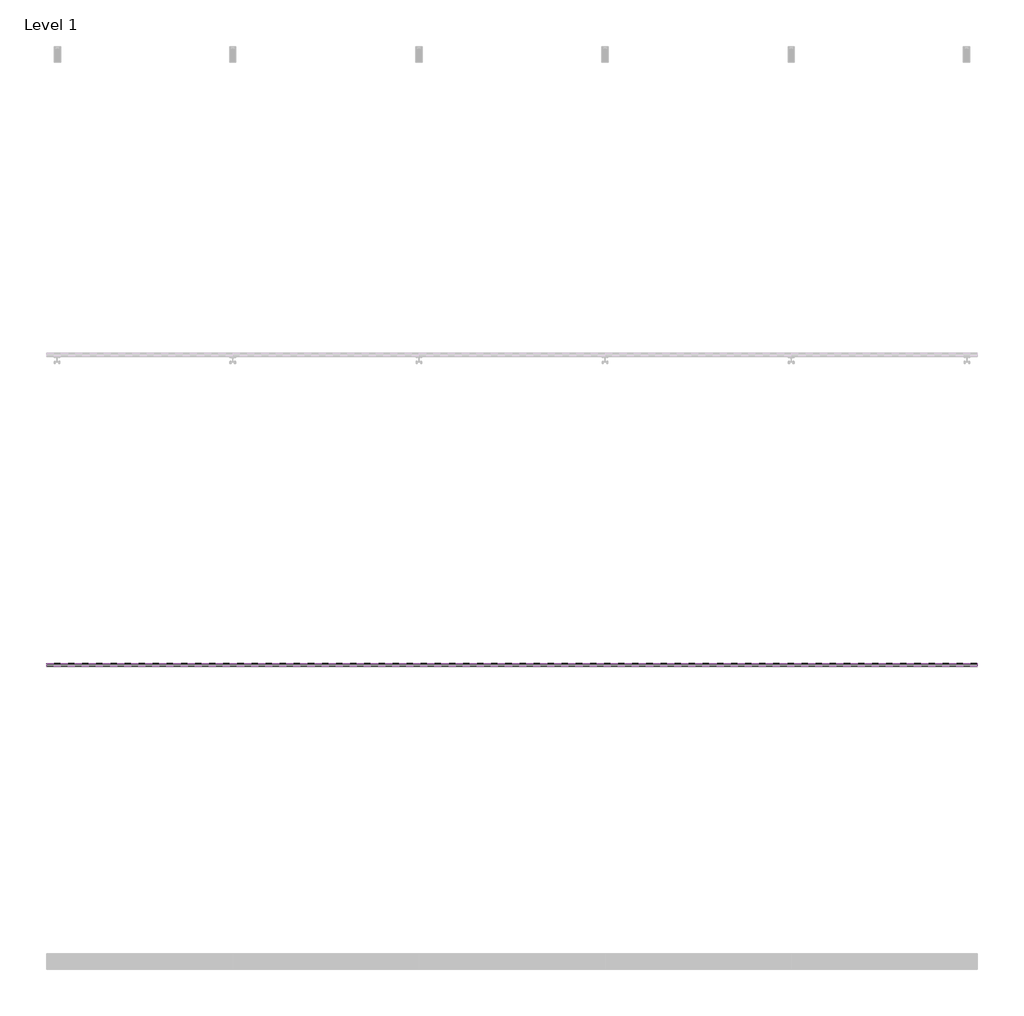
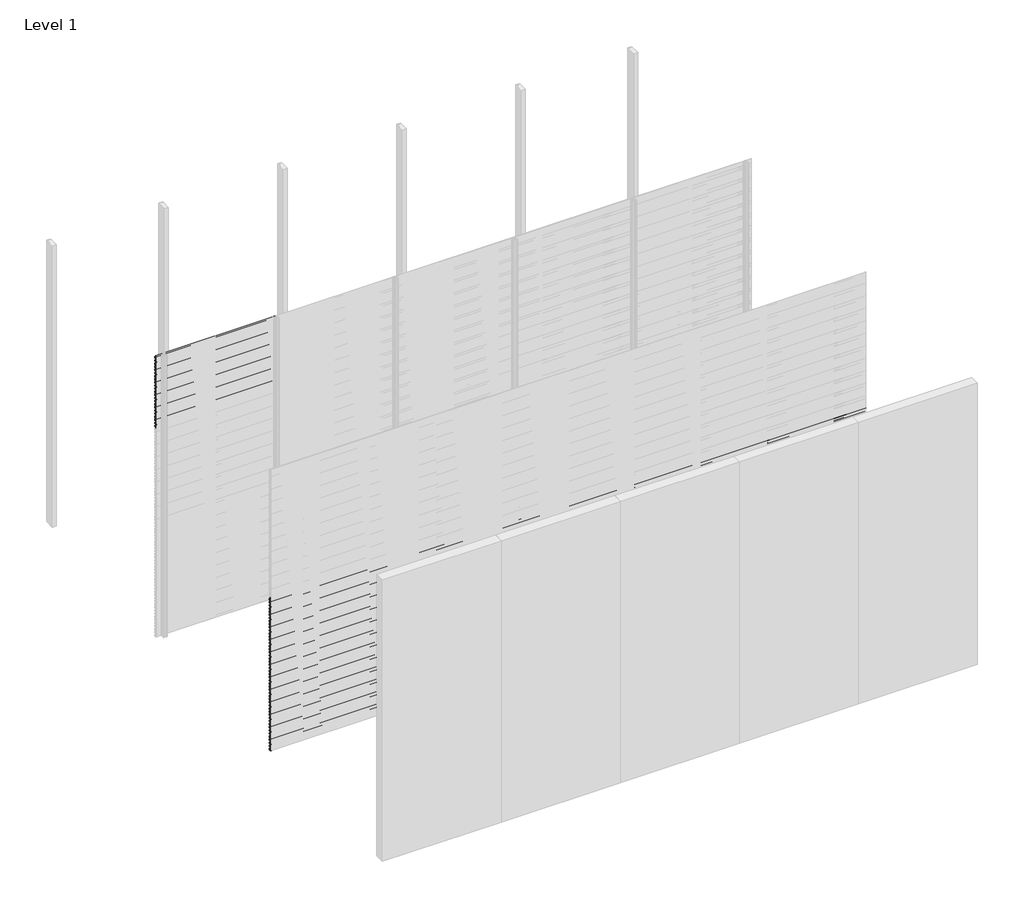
# One storey, part 19 of 77: 72 proxies.
"""IFC4 building model written with IfcOpenShell, lengths in millimetres."""

from ifc_helpers import new_model, si_unit, frame, origin, place, context, project, spatial, polyline, outline, extrude, element, save

model = new_model("IFC4")

# Units and contexts
model_context = context("Model", 3, world=origin())
ifc_project = project(units=[si_unit("LENGTHUNIT", "METRE", prefix="MILLI")], contexts=[model_context])

# Site, building, storey
site = spatial("IfcSite", under=ifc_project)
building = spatial("IfcBuilding", under=site)
storey = spatial("IfcBuildingStorey", under=building, Name="Level 1", Elevation=0.0)

# Proxies
placement = place(None, origin())
element("IfcBuildingElementProxy", 1, Name="Wall Sweeps", at=placement, inside=storey, context=model_context, shape_type="SweptSolid", body=[
    extrude(outline(polyline([(-41978.6, 2972.5359887), (-41998.0, 2983.7366691), (-41998.0, 2997.0), (-41997.0, 2997.0), (-41997.0, 2984.3191057), (-41977.6, 2973.1185105), (-41977.6, 2959.5185105), (-41978.6, 2961.0953129), (-41978.6, 2966.9032062), (-41995.9773817, 2958.8), (-41996.4, 2959.7063078), (-41978.6, 2968.0065841), (-41978.6, 2972.5359887)])), frame((0.0, 0.0, 0.0), z_axis=(1.0, 0.0, 0.0), x_axis=(0.0, 1.0, 0.0)), (0.0, 0.0, 1.0), 1200.0),
])
element("IfcBuildingElementProxy", 2, Name="Wall Sweeps", at=placement, inside=storey, context=model_context, shape_type="SweptSolid", body=[
    extrude(outline(polyline([(-41978.6, 2939.2359887), (-41998.0, 2950.4366691), (-41998.0, 2963.7), (-41997.0, 2963.7), (-41997.0, 2951.0191057), (-41977.6, 2939.8185105), (-41977.6, 2926.2185105), (-41978.6, 2927.7953129), (-41978.6, 2933.6032062), (-41995.9773817, 2925.5), (-41996.4, 2926.4063078), (-41978.6, 2934.7065841), (-41978.6, 2939.2359887)])), frame((0.0, 0.0, 0.0), z_axis=(1.0, 0.0, 0.0), x_axis=(0.0, 1.0, 0.0)), (0.0, 0.0, 1.0), 1200.0),
])
element("IfcBuildingElementProxy", 3, Name="Wall Sweeps", at=placement, inside=storey, context=model_context, shape_type="SweptSolid", body=[
    extrude(outline(polyline([(-41978.6, 2905.9359887), (-41998.0, 2917.1366691), (-41998.0, 2930.4), (-41997.0, 2930.4), (-41997.0, 2917.7191057), (-41977.6, 2906.5185105), (-41977.6, 2892.9185105), (-41978.6, 2894.4953129), (-41978.6, 2900.3032062), (-41995.9773817, 2892.2), (-41996.4, 2893.1063078), (-41978.6, 2901.4065841), (-41978.6, 2905.9359887)])), frame((0.0, 0.0, 0.0), z_axis=(1.0, 0.0, 0.0), x_axis=(0.0, 1.0, 0.0)), (0.0, 0.0, 1.0), 1200.0),
])
element("IfcBuildingElementProxy", 4, Name="Wall Sweeps", at=placement, inside=storey, context=model_context, shape_type="SweptSolid", body=[
    extrude(outline(polyline([(-41978.6, 2872.6359887), (-41998.0, 2883.8366691), (-41998.0, 2897.1), (-41997.0, 2897.1), (-41997.0, 2884.4191057), (-41977.6, 2873.2185105), (-41977.6, 2859.6185105), (-41978.6, 2861.1953129), (-41978.6, 2867.0032062), (-41995.9773817, 2858.9), (-41996.4, 2859.8063078), (-41978.6, 2868.1065841), (-41978.6, 2872.6359887)])), frame((0.0, 0.0, 0.0), z_axis=(1.0, 0.0, 0.0), x_axis=(0.0, 1.0, 0.0)), (0.0, 0.0, 1.0), 1200.0),
])
element("IfcBuildingElementProxy", 5, Name="Wall Sweeps", at=placement, inside=storey, context=model_context, shape_type="SweptSolid", body=[
    extrude(outline(polyline([(-41978.6, 2839.3359887), (-41998.0, 2850.5366691), (-41998.0, 2863.8), (-41997.0, 2863.8), (-41997.0, 2851.1191057), (-41977.6, 2839.9185105), (-41977.6, 2826.3185105), (-41978.6, 2827.8953129), (-41978.6, 2833.7032062), (-41995.9773817, 2825.6), (-41996.4, 2826.5063078), (-41978.6, 2834.8065841), (-41978.6, 2839.3359887)])), frame((0.0, 0.0, 0.0), z_axis=(1.0, 0.0, 0.0), x_axis=(0.0, 1.0, 0.0)), (0.0, 0.0, 1.0), 1200.0),
])
element("IfcBuildingElementProxy", 6, Name="Wall Sweeps", at=placement, inside=storey, context=model_context, shape_type="SweptSolid", body=[
    extrude(outline(polyline([(-41978.6, 2806.0359887), (-41998.0, 2817.2366691), (-41998.0, 2830.5), (-41997.0, 2830.5), (-41997.0, 2817.8191057), (-41977.6, 2806.6185105), (-41977.6, 2793.0185105), (-41978.6, 2794.5953129), (-41978.6, 2800.4032062), (-41995.9773817, 2792.3), (-41996.4, 2793.2063078), (-41978.6, 2801.5065841), (-41978.6, 2806.0359887)])), frame((0.0, 0.0, 0.0), z_axis=(1.0, 0.0, 0.0), x_axis=(0.0, 1.0, 0.0)), (0.0, 0.0, 1.0), 1200.0),
])
element("IfcBuildingElementProxy", 7, Name="Wall Sweeps", at=placement, inside=storey, context=model_context, shape_type="SweptSolid", body=[
    extrude(outline(polyline([(-41978.6, 2772.7359887), (-41998.0, 2783.9366691), (-41998.0, 2797.2), (-41997.0, 2797.2), (-41997.0, 2784.5191057), (-41977.6, 2773.3185105), (-41977.6, 2759.7185105), (-41978.6, 2761.2953129), (-41978.6, 2767.1032062), (-41995.9773817, 2759.0), (-41996.4, 2759.9063078), (-41978.6, 2768.2065841), (-41978.6, 2772.7359887)])), frame((0.0, 0.0, 0.0), z_axis=(1.0, 0.0, 0.0), x_axis=(0.0, 1.0, 0.0)), (0.0, 0.0, 1.0), 1200.0),
])
element("IfcBuildingElementProxy", 8, Name="Wall Sweeps", at=placement, inside=storey, context=model_context, shape_type="SweptSolid", body=[
    extrude(outline(polyline([(-41978.6, 2739.4359887), (-41998.0, 2750.6366691), (-41998.0, 2763.9), (-41997.0, 2763.9), (-41997.0, 2751.2191057), (-41977.6, 2740.0185105), (-41977.6, 2726.4185105), (-41978.6, 2727.9953129), (-41978.6, 2733.8032062), (-41995.9773817, 2725.7), (-41996.4, 2726.6063078), (-41978.6, 2734.9065841), (-41978.6, 2739.4359887)])), frame((0.0, 0.0, 0.0), z_axis=(1.0, 0.0, 0.0), x_axis=(0.0, 1.0, 0.0)), (0.0, 0.0, 1.0), 1200.0),
])
element("IfcBuildingElementProxy", 9, Name="Wall Sweeps", at=placement, inside=storey, context=model_context, shape_type="SweptSolid", body=[
    extrude(outline(polyline([(-41978.6, 2706.1359887), (-41998.0, 2717.3366691), (-41998.0, 2730.6), (-41997.0, 2730.6), (-41997.0, 2717.9191057), (-41977.6, 2706.7185105), (-41977.6, 2693.1185105), (-41978.6, 2694.6953129), (-41978.6, 2700.5032062), (-41995.9773817, 2692.4), (-41996.4, 2693.3063078), (-41978.6, 2701.6065841), (-41978.6, 2706.1359887)])), frame((0.0, 0.0, 0.0), z_axis=(1.0, 0.0, 0.0), x_axis=(0.0, 1.0, 0.0)), (0.0, 0.0, 1.0), 1200.0),
])
element("IfcBuildingElementProxy", 10, Name="Wall Sweeps", at=placement, inside=storey, context=model_context, shape_type="SweptSolid", body=[
    extrude(outline(polyline([(-41978.6, 2672.8359887), (-41998.0, 2684.0366691), (-41998.0, 2697.3), (-41997.0, 2697.3), (-41997.0, 2684.6191057), (-41977.6, 2673.4185105), (-41977.6, 2659.8185105), (-41978.6, 2661.3953129), (-41978.6, 2667.2032062), (-41995.9773817, 2659.1), (-41996.4, 2660.0063078), (-41978.6, 2668.3065841), (-41978.6, 2672.8359887)])), frame((0.0, 0.0, 0.0), z_axis=(1.0, 0.0, 0.0), x_axis=(0.0, 1.0, 0.0)), (0.0, 0.0, 1.0), 1200.0),
])
element("IfcBuildingElementProxy", 11, Name="Wall Sweeps", at=placement, inside=storey, context=model_context, shape_type="SweptSolid", body=[
    extrude(outline(polyline([(-41978.6, 2639.5359887), (-41998.0, 2650.7366691), (-41998.0, 2664.0), (-41997.0, 2664.0), (-41997.0, 2651.3191057), (-41977.6, 2640.1185105), (-41977.6, 2626.5185105), (-41978.6, 2628.0953129), (-41978.6, 2633.9032062), (-41995.9773817, 2625.8), (-41996.4, 2626.7063078), (-41978.6, 2635.0065841), (-41978.6, 2639.5359887)])), frame((0.0, 0.0, 0.0), z_axis=(1.0, 0.0, 0.0), x_axis=(0.0, 1.0, 0.0)), (0.0, 0.0, 1.0), 1200.0),
])
element("IfcBuildingElementProxy", 12, Name="Wall Sweeps", at=placement, inside=storey, context=model_context, shape_type="SweptSolid", body=[
    extrude(outline(polyline([(-41978.6, 2606.2359887), (-41998.0, 2617.4366691), (-41998.0, 2630.7), (-41997.0, 2630.7), (-41997.0, 2618.0191057), (-41977.6, 2606.8185105), (-41977.6, 2593.2185105), (-41978.6, 2594.7953129), (-41978.6, 2600.6032062), (-41995.9773817, 2592.5), (-41996.4, 2593.4063078), (-41978.6, 2601.7065841), (-41978.6, 2606.2359887)])), frame((0.0, 0.0, 0.0), z_axis=(1.0, 0.0, 0.0), x_axis=(0.0, 1.0, 0.0)), (0.0, 0.0, 1.0), 1200.0),
])
element("IfcBuildingElementProxy", 13, Name="Wall Sweeps", at=placement, inside=storey, context=model_context, shape_type="SweptSolid", body=[
    extrude(outline(polyline([(-41978.6, 2572.9359887), (-41998.0, 2584.1366691), (-41998.0, 2597.4), (-41997.0, 2597.4), (-41997.0, 2584.7191057), (-41977.6, 2573.5185105), (-41977.6, 2559.9185105), (-41978.6, 2561.4953129), (-41978.6, 2567.3032062), (-41995.9773817, 2559.2), (-41996.4, 2560.1063078), (-41978.6, 2568.4065841), (-41978.6, 2572.9359887)])), frame((0.0, 0.0, 0.0), z_axis=(1.0, 0.0, 0.0), x_axis=(0.0, 1.0, 0.0)), (0.0, 0.0, 1.0), 1200.0),
])
element("IfcBuildingElementProxy", 14, Name="Wall Sweeps", at=placement, inside=storey, context=model_context, shape_type="SweptSolid", body=[
    extrude(outline(polyline([(-41978.6, 2539.6359887), (-41998.0, 2550.8366691), (-41998.0, 2564.1), (-41997.0, 2564.1), (-41997.0, 2551.4191057), (-41977.6, 2540.2185105), (-41977.6, 2526.6185105), (-41978.6, 2528.1953129), (-41978.6, 2534.0032062), (-41995.9773817, 2525.9), (-41996.4, 2526.8063078), (-41978.6, 2535.1065841), (-41978.6, 2539.6359887)])), frame((0.0, 0.0, 0.0), z_axis=(1.0, 0.0, 0.0), x_axis=(0.0, 1.0, 0.0)), (0.0, 0.0, 1.0), 1200.0),
])
element("IfcBuildingElementProxy", 15, Name="Wall Sweeps", at=placement, inside=storey, context=model_context, shape_type="SweptSolid", body=[
    extrude(outline(polyline([(-41978.6, 2506.3359887), (-41998.0, 2517.5366691), (-41998.0, 2530.8), (-41997.0, 2530.8), (-41997.0, 2518.1191057), (-41977.6, 2506.9185105), (-41977.6, 2493.3185105), (-41978.6, 2494.8953129), (-41978.6, 2500.7032062), (-41995.9773817, 2492.6), (-41996.4, 2493.5063078), (-41978.6, 2501.8065841), (-41978.6, 2506.3359887)])), frame((0.0, 0.0, 0.0), z_axis=(1.0, 0.0, 0.0), x_axis=(0.0, 1.0, 0.0)), (0.0, 0.0, 1.0), 1200.0),
])
element("IfcBuildingElementProxy", 16, Name="Wall Sweeps", at=placement, inside=storey, context=model_context, shape_type="SweptSolid", body=[
    extrude(outline(polyline([(-41978.6, 2473.0359887), (-41998.0, 2484.2366691), (-41998.0, 2497.5), (-41997.0, 2497.5), (-41997.0, 2484.8191057), (-41977.6, 2473.6185105), (-41977.6, 2460.0185105), (-41978.6, 2461.5953129), (-41978.6, 2467.4032062), (-41995.9773817, 2459.3), (-41996.4, 2460.2063078), (-41978.6, 2468.5065841), (-41978.6, 2473.0359887)])), frame((0.0, 0.0, 0.0), z_axis=(1.0, 0.0, 0.0), x_axis=(0.0, 1.0, 0.0)), (0.0, 0.0, 1.0), 1200.0),
])
element("IfcBuildingElementProxy", 17, Name="Wall Sweeps", at=placement, inside=storey, context=model_context, shape_type="SweptSolid", body=[
    extrude(outline(polyline([(-41978.6, 2439.7359887), (-41998.0, 2450.9366691), (-41998.0, 2464.2), (-41997.0, 2464.2), (-41997.0, 2451.5191057), (-41977.6, 2440.3185105), (-41977.6, 2426.7185105), (-41978.6, 2428.2953129), (-41978.6, 2434.1032062), (-41995.9773817, 2426.0), (-41996.4, 2426.9063078), (-41978.6, 2435.2065841), (-41978.6, 2439.7359887)])), frame((0.0, 0.0, 0.0), z_axis=(1.0, 0.0, 0.0), x_axis=(0.0, 1.0, 0.0)), (0.0, 0.0, 1.0), 1200.0),
])
element("IfcBuildingElementProxy", 18, Name="Wall Sweeps", at=placement, inside=storey, context=model_context, shape_type="SweptSolid", body=[
    extrude(outline(polyline([(-41978.6, 2406.4359887), (-41998.0, 2417.6366691), (-41998.0, 2430.9), (-41997.0, 2430.9), (-41997.0, 2418.2191057), (-41977.6, 2407.0185105), (-41977.6, 2393.4185105), (-41978.6, 2394.9953129), (-41978.6, 2400.8032062), (-41995.9773817, 2392.7), (-41996.4, 2393.6063078), (-41978.6, 2401.9065841), (-41978.6, 2406.4359887)])), frame((0.0, 0.0, 0.0), z_axis=(1.0, 0.0, 0.0), x_axis=(0.0, 1.0, 0.0)), (0.0, 0.0, 1.0), 1200.0),
])
element("IfcBuildingElementProxy", 19, Name="Wall Sweeps", at=placement, inside=storey, context=model_context, shape_type="SweptSolid", body=[
    extrude(outline(polyline([(-41978.6, 2373.1359887), (-41998.0, 2384.3366691), (-41998.0, 2397.6), (-41997.0, 2397.6), (-41997.0, 2384.9191057), (-41977.6, 2373.7185105), (-41977.6, 2360.1185105), (-41978.6, 2361.6953129), (-41978.6, 2367.5032062), (-41995.9773817, 2359.4), (-41996.4, 2360.3063078), (-41978.6, 2368.6065841), (-41978.6, 2373.1359887)])), frame((0.0, 0.0, 0.0), z_axis=(1.0, 0.0, 0.0), x_axis=(0.0, 1.0, 0.0)), (0.0, 0.0, 1.0), 1200.0),
])
element("IfcBuildingElementProxy", 20, Name="Wall Sweeps", at=placement, inside=storey, context=model_context, shape_type="SweptSolid", body=[
    extrude(outline(polyline([(-41978.6, 2339.8359887), (-41998.0, 2351.0366691), (-41998.0, 2364.3), (-41997.0, 2364.3), (-41997.0, 2351.6191057), (-41977.6, 2340.4185105), (-41977.6, 2326.8185105), (-41978.6, 2328.3953129), (-41978.6, 2334.2032062), (-41995.9773817, 2326.1), (-41996.4, 2327.0063078), (-41978.6, 2335.3065841), (-41978.6, 2339.8359887)])), frame((0.0, 0.0, 0.0), z_axis=(1.0, 0.0, 0.0), x_axis=(0.0, 1.0, 0.0)), (0.0, 0.0, 1.0), 1200.0),
])
element("IfcBuildingElementProxy", 21, Name="Wall Sweeps", at=placement, inside=storey, context=model_context, shape_type="SweptSolid", body=[
    extrude(outline(polyline([(-41978.6, 2306.5359887), (-41998.0, 2317.7366691), (-41998.0, 2331.0), (-41997.0, 2331.0), (-41997.0, 2318.3191057), (-41977.6, 2307.1185105), (-41977.6, 2293.5185105), (-41978.6, 2295.0953129), (-41978.6, 2300.9032062), (-41995.9773817, 2292.8), (-41996.4, 2293.7063078), (-41978.6, 2302.0065841), (-41978.6, 2306.5359887)])), frame((0.0, 0.0, 0.0), z_axis=(1.0, 0.0, 0.0), x_axis=(0.0, 1.0, 0.0)), (0.0, 0.0, 1.0), 1200.0),
])
element("IfcBuildingElementProxy", 22, Name="Wall Sweeps", at=placement, inside=storey, context=model_context, shape_type="SweptSolid", body=[
    extrude(outline(polyline([(-41978.6, 2273.2359887), (-41998.0, 2284.4366691), (-41998.0, 2297.7), (-41997.0, 2297.7), (-41997.0, 2285.0191057), (-41977.6, 2273.8185105), (-41977.6, 2260.2185105), (-41978.6, 2261.7953129), (-41978.6, 2267.6032062), (-41995.9773817, 2259.5), (-41996.4, 2260.4063078), (-41978.6, 2268.7065841), (-41978.6, 2273.2359887)])), frame((0.0, 0.0, 0.0), z_axis=(1.0, 0.0, 0.0), x_axis=(0.0, 1.0, 0.0)), (0.0, 0.0, 1.0), 1200.0),
])
element("IfcBuildingElementProxy", 23, Name="Wall Sweeps", at=placement, inside=storey, context=model_context, shape_type="SweptSolid", body=[
    extrude(outline(polyline([(-41978.6, 2239.9359887), (-41998.0, 2251.1366691), (-41998.0, 2264.4), (-41997.0, 2264.4), (-41997.0, 2251.7191057), (-41977.6, 2240.5185105), (-41977.6, 2226.9185105), (-41978.6, 2228.4953129), (-41978.6, 2234.3032062), (-41995.9773817, 2226.2), (-41996.4, 2227.1063078), (-41978.6, 2235.4065841), (-41978.6, 2239.9359887)])), frame((0.0, 0.0, 0.0), z_axis=(1.0, 0.0, 0.0), x_axis=(0.0, 1.0, 0.0)), (0.0, 0.0, 1.0), 1200.0),
])
element("IfcBuildingElementProxy", 24, Name="Wall Sweeps", at=placement, inside=storey, context=model_context, shape_type="SweptSolid", body=[
    extrude(outline(polyline([(-43978.6, 1607.2359887), (-43998.0, 1618.4366691), (-43998.0, 1631.7), (-43997.0, 1631.7), (-43997.0, 1619.0191057), (-43977.6, 1607.8185105), (-43977.6, 1594.2185105), (-43978.6, 1595.7953129), (-43978.6, 1601.6032062), (-43995.9773817, 1593.5), (-43996.4, 1594.4063078), (-43978.6, 1602.7065841), (-43978.6, 1607.2359887)])), frame((0.0, 0.0, 0.0), z_axis=(1.0, 0.0, 0.0), x_axis=(0.0, 1.0, 0.0)), (0.0, 0.0, 1.0), 6000.0),
])
element("IfcBuildingElementProxy", 25, Name="Wall Sweeps", at=placement, inside=storey, context=model_context, shape_type="SweptSolid", body=[
    extrude(outline(polyline([(-43978.6, 1573.9359887), (-43998.0, 1585.1366691), (-43998.0, 1598.4), (-43997.0, 1598.4), (-43997.0, 1585.7191057), (-43977.6, 1574.5185105), (-43977.6, 1560.9185105), (-43978.6, 1562.4953129), (-43978.6, 1568.3032062), (-43995.9773817, 1560.2), (-43996.4, 1561.1063078), (-43978.6, 1569.4065841), (-43978.6, 1573.9359887)])), frame((0.0, 0.0, 0.0), z_axis=(1.0, 0.0, 0.0), x_axis=(0.0, 1.0, 0.0)), (0.0, 0.0, 1.0), 6000.0),
])
element("IfcBuildingElementProxy", 26, Name="Wall Sweeps", at=placement, inside=storey, context=model_context, shape_type="SweptSolid", body=[
    extrude(outline(polyline([(-43978.6, 1540.6359887), (-43998.0, 1551.8366691), (-43998.0, 1565.1), (-43997.0, 1565.1), (-43997.0, 1552.4191057), (-43977.6, 1541.2185105), (-43977.6, 1527.6185105), (-43978.6, 1529.1953129), (-43978.6, 1535.0032062), (-43995.9773817, 1526.9), (-43996.4, 1527.8063078), (-43978.6, 1536.1065841), (-43978.6, 1540.6359887)])), frame((0.0, 0.0, 0.0), z_axis=(1.0, 0.0, 0.0), x_axis=(0.0, 1.0, 0.0)), (0.0, 0.0, 1.0), 6000.0),
])
element("IfcBuildingElementProxy", 27, Name="Wall Sweeps", at=placement, inside=storey, context=model_context, shape_type="SweptSolid", body=[
    extrude(outline(polyline([(-43978.6, 1507.3359887), (-43998.0, 1518.5366691), (-43998.0, 1531.8), (-43997.0, 1531.8), (-43997.0, 1519.1191057), (-43977.6, 1507.9185105), (-43977.6, 1494.3185105), (-43978.6, 1495.8953129), (-43978.6, 1501.7032062), (-43995.9773817, 1493.6), (-43996.4, 1494.5063078), (-43978.6, 1502.8065841), (-43978.6, 1507.3359887)])), frame((0.0, 0.0, 0.0), z_axis=(1.0, 0.0, 0.0), x_axis=(0.0, 1.0, 0.0)), (0.0, 0.0, 1.0), 6000.0),
])
element("IfcBuildingElementProxy", 28, Name="Wall Sweeps", at=placement, inside=storey, context=model_context, shape_type="SweptSolid", body=[
    extrude(outline(polyline([(-43978.6, 1474.0359887), (-43998.0, 1485.2366691), (-43998.0, 1498.5), (-43997.0, 1498.5), (-43997.0, 1485.8191057), (-43977.6, 1474.6185105), (-43977.6, 1461.0185105), (-43978.6, 1462.5953129), (-43978.6, 1468.4032062), (-43995.9773817, 1460.3), (-43996.4, 1461.2063078), (-43978.6, 1469.5065841), (-43978.6, 1474.0359887)])), frame((0.0, 0.0, 0.0), z_axis=(1.0, 0.0, 0.0), x_axis=(0.0, 1.0, 0.0)), (0.0, 0.0, 1.0), 6000.0),
])
element("IfcBuildingElementProxy", 29, Name="Wall Sweeps", at=placement, inside=storey, context=model_context, shape_type="SweptSolid", body=[
    extrude(outline(polyline([(-43978.6, 1440.7359887), (-43998.0, 1451.9366691), (-43998.0, 1465.2), (-43997.0, 1465.2), (-43997.0, 1452.5191057), (-43977.6, 1441.3185105), (-43977.6, 1427.7185105), (-43978.6, 1429.2953129), (-43978.6, 1435.1032062), (-43995.9773817, 1427.0), (-43996.4, 1427.9063078), (-43978.6, 1436.2065841), (-43978.6, 1440.7359887)])), frame((0.0, 0.0, 0.0), z_axis=(1.0, 0.0, 0.0), x_axis=(0.0, 1.0, 0.0)), (0.0, 0.0, 1.0), 6000.0),
])
element("IfcBuildingElementProxy", 30, Name="Wall Sweeps", at=placement, inside=storey, context=model_context, shape_type="SweptSolid", body=[
    extrude(outline(polyline([(-43978.6, 1407.4359887), (-43998.0, 1418.6366691), (-43998.0, 1431.9), (-43997.0, 1431.9), (-43997.0, 1419.2191057), (-43977.6, 1408.0185105), (-43977.6, 1394.4185105), (-43978.6, 1395.9953129), (-43978.6, 1401.8032062), (-43995.9773817, 1393.7), (-43996.4, 1394.6063078), (-43978.6, 1402.9065841), (-43978.6, 1407.4359887)])), frame((0.0, 0.0, 0.0), z_axis=(1.0, 0.0, 0.0), x_axis=(0.0, 1.0, 0.0)), (0.0, 0.0, 1.0), 6000.0),
])
element("IfcBuildingElementProxy", 31, Name="Wall Sweeps", at=placement, inside=storey, context=model_context, shape_type="SweptSolid", body=[
    extrude(outline(polyline([(-43978.6, 1374.1359887), (-43998.0, 1385.3366691), (-43998.0, 1398.6), (-43997.0, 1398.6), (-43997.0, 1385.9191057), (-43977.6, 1374.7185105), (-43977.6, 1361.1185105), (-43978.6, 1362.6953129), (-43978.6, 1368.5032062), (-43995.9773817, 1360.4), (-43996.4, 1361.3063078), (-43978.6, 1369.6065841), (-43978.6, 1374.1359887)])), frame((0.0, 0.0, 0.0), z_axis=(1.0, 0.0, 0.0), x_axis=(0.0, 1.0, 0.0)), (0.0, 0.0, 1.0), 6000.0),
])
element("IfcBuildingElementProxy", 32, Name="Wall Sweeps", at=placement, inside=storey, context=model_context, shape_type="SweptSolid", body=[
    extrude(outline(polyline([(-43978.6, 1340.8359887), (-43998.0, 1352.0366691), (-43998.0, 1365.3), (-43997.0, 1365.3), (-43997.0, 1352.6191057), (-43977.6, 1341.4185105), (-43977.6, 1327.8185105), (-43978.6, 1329.3953129), (-43978.6, 1335.2032062), (-43995.9773817, 1327.1), (-43996.4, 1328.0063078), (-43978.6, 1336.3065841), (-43978.6, 1340.8359887)])), frame((0.0, 0.0, 0.0), z_axis=(1.0, 0.0, 0.0), x_axis=(0.0, 1.0, 0.0)), (0.0, 0.0, 1.0), 6000.0),
])
element("IfcBuildingElementProxy", 33, Name="Wall Sweeps", at=placement, inside=storey, context=model_context, shape_type="SweptSolid", body=[
    extrude(outline(polyline([(-43978.6, 1307.5359887), (-43998.0, 1318.7366691), (-43998.0, 1332.0), (-43997.0, 1332.0), (-43997.0, 1319.3191057), (-43977.6, 1308.1185105), (-43977.6, 1294.5185105), (-43978.6, 1296.0953129), (-43978.6, 1301.9032062), (-43995.9773817, 1293.8), (-43996.4, 1294.7063078), (-43978.6, 1303.0065841), (-43978.6, 1307.5359887)])), frame((0.0, 0.0, 0.0), z_axis=(1.0, 0.0, 0.0), x_axis=(0.0, 1.0, 0.0)), (0.0, 0.0, 1.0), 6000.0),
])
element("IfcBuildingElementProxy", 34, Name="Wall Sweeps", at=placement, inside=storey, context=model_context, shape_type="SweptSolid", body=[
    extrude(outline(polyline([(-43978.6, 1274.2359887), (-43998.0, 1285.4366691), (-43998.0, 1298.7), (-43997.0, 1298.7), (-43997.0, 1286.0191057), (-43977.6, 1274.8185105), (-43977.6, 1261.2185105), (-43978.6, 1262.7953129), (-43978.6, 1268.6032062), (-43995.9773817, 1260.5), (-43996.4, 1261.4063078), (-43978.6, 1269.7065841), (-43978.6, 1274.2359887)])), frame((0.0, 0.0, 0.0), z_axis=(1.0, 0.0, 0.0), x_axis=(0.0, 1.0, 0.0)), (0.0, 0.0, 1.0), 6000.0),
])
element("IfcBuildingElementProxy", 35, Name="Wall Sweeps", at=placement, inside=storey, context=model_context, shape_type="SweptSolid", body=[
    extrude(outline(polyline([(-43978.6, 1240.9359887), (-43998.0, 1252.1366691), (-43998.0, 1265.4), (-43997.0, 1265.4), (-43997.0, 1252.7191057), (-43977.6, 1241.5185105), (-43977.6, 1227.9185105), (-43978.6, 1229.4953129), (-43978.6, 1235.3032062), (-43995.9773817, 1227.2), (-43996.4, 1228.1063078), (-43978.6, 1236.4065841), (-43978.6, 1240.9359887)])), frame((0.0, 0.0, 0.0), z_axis=(1.0, 0.0, 0.0), x_axis=(0.0, 1.0, 0.0)), (0.0, 0.0, 1.0), 6000.0),
])
element("IfcBuildingElementProxy", 36, Name="Wall Sweeps", at=placement, inside=storey, context=model_context, shape_type="SweptSolid", body=[
    extrude(outline(polyline([(-43978.6, 1207.6359887), (-43998.0, 1218.8366691), (-43998.0, 1232.1), (-43997.0, 1232.1), (-43997.0, 1219.4191057), (-43977.6, 1208.2185105), (-43977.6, 1194.6185105), (-43978.6, 1196.1953129), (-43978.6, 1202.0032062), (-43995.9773817, 1193.9), (-43996.4, 1194.8063078), (-43978.6, 1203.1065841), (-43978.6, 1207.6359887)])), frame((0.0, 0.0, 0.0), z_axis=(1.0, 0.0, 0.0), x_axis=(0.0, 1.0, 0.0)), (0.0, 0.0, 1.0), 6000.0),
])
element("IfcBuildingElementProxy", 37, Name="Wall Sweeps", at=placement, inside=storey, context=model_context, shape_type="SweptSolid", body=[
    extrude(outline(polyline([(-43978.6, 1174.3359887), (-43998.0, 1185.5366691), (-43998.0, 1198.8), (-43997.0, 1198.8), (-43997.0, 1186.1191057), (-43977.6, 1174.9185105), (-43977.6, 1161.3185105), (-43978.6, 1162.8953129), (-43978.6, 1168.7032062), (-43995.9773817, 1160.6), (-43996.4, 1161.5063078), (-43978.6, 1169.8065841), (-43978.6, 1174.3359887)])), frame((0.0, 0.0, 0.0), z_axis=(1.0, 0.0, 0.0), x_axis=(0.0, 1.0, 0.0)), (0.0, 0.0, 1.0), 6000.0),
])
element("IfcBuildingElementProxy", 38, Name="Wall Sweeps", at=placement, inside=storey, context=model_context, shape_type="SweptSolid", body=[
    extrude(outline(polyline([(-43978.6, 1141.0359887), (-43998.0, 1152.2366691), (-43998.0, 1165.5), (-43997.0, 1165.5), (-43997.0, 1152.8191057), (-43977.6, 1141.6185105), (-43977.6, 1128.0185105), (-43978.6, 1129.5953129), (-43978.6, 1135.4032062), (-43995.9773817, 1127.3), (-43996.4, 1128.2063078), (-43978.6, 1136.5065841), (-43978.6, 1141.0359887)])), frame((0.0, 0.0, 0.0), z_axis=(1.0, 0.0, 0.0), x_axis=(0.0, 1.0, 0.0)), (0.0, 0.0, 1.0), 6000.0),
])
element("IfcBuildingElementProxy", 39, Name="Wall Sweeps", at=placement, inside=storey, context=model_context, shape_type="SweptSolid", body=[
    extrude(outline(polyline([(-43978.6, 1107.7359887), (-43998.0, 1118.9366691), (-43998.0, 1132.2), (-43997.0, 1132.2), (-43997.0, 1119.5191057), (-43977.6, 1108.3185105), (-43977.6, 1094.7185105), (-43978.6, 1096.2953129), (-43978.6, 1102.1032062), (-43995.9773817, 1094.0), (-43996.4, 1094.9063078), (-43978.6, 1103.2065841), (-43978.6, 1107.7359887)])), frame((0.0, 0.0, 0.0), z_axis=(1.0, 0.0, 0.0), x_axis=(0.0, 1.0, 0.0)), (0.0, 0.0, 1.0), 6000.0),
])
element("IfcBuildingElementProxy", 40, Name="Wall Sweeps", at=placement, inside=storey, context=model_context, shape_type="SweptSolid", body=[
    extrude(outline(polyline([(-43978.6, 1074.4359887), (-43998.0, 1085.6366691), (-43998.0, 1098.9), (-43997.0, 1098.9), (-43997.0, 1086.2191057), (-43977.6, 1075.0185105), (-43977.6, 1061.4185105), (-43978.6, 1062.9953129), (-43978.6, 1068.8032062), (-43995.9773817, 1060.7), (-43996.4, 1061.6063078), (-43978.6, 1069.9065841), (-43978.6, 1074.4359887)])), frame((0.0, 0.0, 0.0), z_axis=(1.0, 0.0, 0.0), x_axis=(0.0, 1.0, 0.0)), (0.0, 0.0, 1.0), 6000.0),
])
element("IfcBuildingElementProxy", 41, Name="Wall Sweeps", at=placement, inside=storey, context=model_context, shape_type="SweptSolid", body=[
    extrude(outline(polyline([(-43978.6, 1041.1359887), (-43998.0, 1052.3366691), (-43998.0, 1065.6), (-43997.0, 1065.6), (-43997.0, 1052.9191057), (-43977.6, 1041.7185105), (-43977.6, 1028.1185105), (-43978.6, 1029.6953129), (-43978.6, 1035.5032062), (-43995.9773817, 1027.4), (-43996.4, 1028.3063078), (-43978.6, 1036.6065841), (-43978.6, 1041.1359887)])), frame((0.0, 0.0, 0.0), z_axis=(1.0, 0.0, 0.0), x_axis=(0.0, 1.0, 0.0)), (0.0, 0.0, 1.0), 6000.0),
])
element("IfcBuildingElementProxy", 42, Name="Wall Sweeps", at=placement, inside=storey, context=model_context, shape_type="SweptSolid", body=[
    extrude(outline(polyline([(-43978.6, 1007.8359887), (-43998.0, 1019.0366691), (-43998.0, 1032.3), (-43997.0, 1032.3), (-43997.0, 1019.6191057), (-43977.6, 1008.4185105), (-43977.6, 994.8185105), (-43978.6, 996.3953129), (-43978.6, 1002.2032062), (-43995.9773817, 994.1), (-43996.4, 995.0063078), (-43978.6, 1003.3065841), (-43978.6, 1007.8359887)])), frame((0.0, 0.0, 0.0), z_axis=(1.0, 0.0, 0.0), x_axis=(0.0, 1.0, 0.0)), (0.0, 0.0, 1.0), 6000.0),
])
element("IfcBuildingElementProxy", 43, Name="Wall Sweeps", at=placement, inside=storey, context=model_context, shape_type="SweptSolid", body=[
    extrude(outline(polyline([(-43978.6, 974.5359887), (-43998.0, 985.7366691), (-43998.0, 999.0), (-43997.0, 999.0), (-43997.0, 986.3191057), (-43977.6, 975.1185105), (-43977.6, 961.5185105), (-43978.6, 963.0953129), (-43978.6, 968.9032062), (-43995.9773817, 960.8), (-43996.4, 961.7063078), (-43978.6, 970.0065841), (-43978.6, 974.5359887)])), frame((0.0, 0.0, 0.0), z_axis=(1.0, 0.0, 0.0), x_axis=(0.0, 1.0, 0.0)), (0.0, 0.0, 1.0), 6000.0),
])
element("IfcBuildingElementProxy", 44, Name="Wall Sweeps", at=placement, inside=storey, context=model_context, shape_type="SweptSolid", body=[
    extrude(outline(polyline([(-43978.6, 941.2359887), (-43998.0, 952.4366691), (-43998.0, 965.7), (-43997.0, 965.7), (-43997.0, 953.0191057), (-43977.6, 941.8185105), (-43977.6, 928.2185105), (-43978.6, 929.7953129), (-43978.6, 935.6032062), (-43995.9773817, 927.5), (-43996.4, 928.4063078), (-43978.6, 936.7065841), (-43978.6, 941.2359887)])), frame((0.0, 0.0, 0.0), z_axis=(1.0, 0.0, 0.0), x_axis=(0.0, 1.0, 0.0)), (0.0, 0.0, 1.0), 6000.0),
])
element("IfcBuildingElementProxy", 45, Name="Wall Sweeps", at=placement, inside=storey, context=model_context, shape_type="SweptSolid", body=[
    extrude(outline(polyline([(-43978.6, 907.9359887), (-43998.0, 919.1366691), (-43998.0, 932.4), (-43997.0, 932.4), (-43997.0, 919.7191057), (-43977.6, 908.5185105), (-43977.6, 894.9185105), (-43978.6, 896.4953129), (-43978.6, 902.3032062), (-43995.9773817, 894.2), (-43996.4, 895.1063078), (-43978.6, 903.4065841), (-43978.6, 907.9359887)])), frame((0.0, 0.0, 0.0), z_axis=(1.0, 0.0, 0.0), x_axis=(0.0, 1.0, 0.0)), (0.0, 0.0, 1.0), 6000.0),
])
element("IfcBuildingElementProxy", 46, Name="Wall Sweeps", at=placement, inside=storey, context=model_context, shape_type="SweptSolid", body=[
    extrude(outline(polyline([(-43978.6, 874.6359887), (-43998.0, 885.8366691), (-43998.0, 899.1), (-43997.0, 899.1), (-43997.0, 886.4191057), (-43977.6, 875.2185105), (-43977.6, 861.6185105), (-43978.6, 863.1953129), (-43978.6, 869.0032062), (-43995.9773817, 860.9), (-43996.4, 861.8063078), (-43978.6, 870.1065841), (-43978.6, 874.6359887)])), frame((0.0, 0.0, 0.0), z_axis=(1.0, 0.0, 0.0), x_axis=(0.0, 1.0, 0.0)), (0.0, 0.0, 1.0), 6000.0),
])
element("IfcBuildingElementProxy", 47, Name="Wall Sweeps", at=placement, inside=storey, context=model_context, shape_type="SweptSolid", body=[
    extrude(outline(polyline([(-43978.6, 841.3359887), (-43998.0, 852.5366691), (-43998.0, 865.8), (-43997.0, 865.8), (-43997.0, 853.1191057), (-43977.6, 841.9185105), (-43977.6, 828.3185105), (-43978.6, 829.8953129), (-43978.6, 835.7032062), (-43995.9773817, 827.6), (-43996.4, 828.5063078), (-43978.6, 836.8065841), (-43978.6, 841.3359887)])), frame((0.0, 0.0, 0.0), z_axis=(1.0, 0.0, 0.0), x_axis=(0.0, 1.0, 0.0)), (0.0, 0.0, 1.0), 6000.0),
])
element("IfcBuildingElementProxy", 48, Name="Wall Sweeps", at=placement, inside=storey, context=model_context, shape_type="SweptSolid", body=[
    extrude(outline(polyline([(-43978.6, 808.0359887), (-43998.0, 819.2366691), (-43998.0, 832.5), (-43997.0, 832.5), (-43997.0, 819.8191057), (-43977.6, 808.6185105), (-43977.6, 795.0185105), (-43978.6, 796.5953129), (-43978.6, 802.4032062), (-43995.9773817, 794.3), (-43996.4, 795.2063078), (-43978.6, 803.5065841), (-43978.6, 808.0359887)])), frame((0.0, 0.0, 0.0), z_axis=(1.0, 0.0, 0.0), x_axis=(0.0, 1.0, 0.0)), (0.0, 0.0, 1.0), 6000.0),
])
element("IfcBuildingElementProxy", 49, Name="Wall Sweeps", at=placement, inside=storey, context=model_context, shape_type="SweptSolid", body=[
    extrude(outline(polyline([(-43978.6, 774.7359887), (-43998.0, 785.9366691), (-43998.0, 799.2), (-43997.0, 799.2), (-43997.0, 786.5191057), (-43977.6, 775.3185105), (-43977.6, 761.7185105), (-43978.6, 763.2953129), (-43978.6, 769.1032062), (-43995.9773817, 761.0), (-43996.4, 761.9063078), (-43978.6, 770.2065841), (-43978.6, 774.7359887)])), frame((0.0, 0.0, 0.0), z_axis=(1.0, 0.0, 0.0), x_axis=(0.0, 1.0, 0.0)), (0.0, 0.0, 1.0), 6000.0),
])
element("IfcBuildingElementProxy", 50, Name="Wall Sweeps", at=placement, inside=storey, context=model_context, shape_type="SweptSolid", body=[
    extrude(outline(polyline([(-43978.6, 741.4359887), (-43998.0, 752.6366691), (-43998.0, 765.9), (-43997.0, 765.9), (-43997.0, 753.2191057), (-43977.6, 742.0185105), (-43977.6, 728.4185105), (-43978.6, 729.9953129), (-43978.6, 735.8032062), (-43995.9773817, 727.7), (-43996.4, 728.6063078), (-43978.6, 736.9065841), (-43978.6, 741.4359887)])), frame((0.0, 0.0, 0.0), z_axis=(1.0, 0.0, 0.0), x_axis=(0.0, 1.0, 0.0)), (0.0, 0.0, 1.0), 6000.0),
])
element("IfcBuildingElementProxy", 51, Name="Wall Sweeps", at=placement, inside=storey, context=model_context, shape_type="SweptSolid", body=[
    extrude(outline(polyline([(-43978.6, 708.1359887), (-43998.0, 719.3366691), (-43998.0, 732.6), (-43997.0, 732.6), (-43997.0, 719.9191057), (-43977.6, 708.7185105), (-43977.6, 695.1185105), (-43978.6, 696.6953129), (-43978.6, 702.5032062), (-43995.9773817, 694.4), (-43996.4, 695.3063078), (-43978.6, 703.6065841), (-43978.6, 708.1359887)])), frame((0.0, 0.0, 0.0), z_axis=(1.0, 0.0, 0.0), x_axis=(0.0, 1.0, 0.0)), (0.0, 0.0, 1.0), 6000.0),
])
element("IfcBuildingElementProxy", 52, Name="Wall Sweeps", at=placement, inside=storey, context=model_context, shape_type="SweptSolid", body=[
    extrude(outline(polyline([(-43978.6, 674.8359887), (-43998.0, 686.0366691), (-43998.0, 699.3), (-43997.0, 699.3), (-43997.0, 686.6191057), (-43977.6, 675.4185105), (-43977.6, 661.8185105), (-43978.6, 663.3953129), (-43978.6, 669.2032062), (-43995.9773817, 661.1), (-43996.4, 662.0063078), (-43978.6, 670.3065841), (-43978.6, 674.8359887)])), frame((0.0, 0.0, 0.0), z_axis=(1.0, 0.0, 0.0), x_axis=(0.0, 1.0, 0.0)), (0.0, 0.0, 1.0), 6000.0),
])
element("IfcBuildingElementProxy", 53, Name="Wall Sweeps", at=placement, inside=storey, context=model_context, shape_type="SweptSolid", body=[
    extrude(outline(polyline([(-43978.6, 641.5359887), (-43998.0, 652.7366691), (-43998.0, 666.0), (-43997.0, 666.0), (-43997.0, 653.3191057), (-43977.6, 642.1185105), (-43977.6, 628.5185105), (-43978.6, 630.0953129), (-43978.6, 635.9032062), (-43995.9773817, 627.8), (-43996.4, 628.7063078), (-43978.6, 637.0065841), (-43978.6, 641.5359887)])), frame((0.0, 0.0, 0.0), z_axis=(1.0, 0.0, 0.0), x_axis=(0.0, 1.0, 0.0)), (0.0, 0.0, 1.0), 6000.0),
])
element("IfcBuildingElementProxy", 54, Name="Wall Sweeps", at=placement, inside=storey, context=model_context, shape_type="SweptSolid", body=[
    extrude(outline(polyline([(-43978.6, 608.2359887), (-43998.0, 619.4366691), (-43998.0, 632.7), (-43997.0, 632.7), (-43997.0, 620.0191057), (-43977.6, 608.8185105), (-43977.6, 595.2185105), (-43978.6, 596.7953129), (-43978.6, 602.6032062), (-43995.9773817, 594.5), (-43996.4, 595.4063078), (-43978.6, 603.7065841), (-43978.6, 608.2359887)])), frame((0.0, 0.0, 0.0), z_axis=(1.0, 0.0, 0.0), x_axis=(0.0, 1.0, 0.0)), (0.0, 0.0, 1.0), 6000.0),
])
element("IfcBuildingElementProxy", 55, Name="Wall Sweeps", at=placement, inside=storey, context=model_context, shape_type="SweptSolid", body=[
    extrude(outline(polyline([(-43978.6, 574.9359887), (-43998.0, 586.1366691), (-43998.0, 599.4), (-43997.0, 599.4), (-43997.0, 586.7191057), (-43977.6, 575.5185105), (-43977.6, 561.9185105), (-43978.6, 563.4953129), (-43978.6, 569.3032062), (-43995.9773817, 561.2), (-43996.4, 562.1063078), (-43978.6, 570.4065841), (-43978.6, 574.9359887)])), frame((0.0, 0.0, 0.0), z_axis=(1.0, 0.0, 0.0), x_axis=(0.0, 1.0, 0.0)), (0.0, 0.0, 1.0), 6000.0),
])
element("IfcBuildingElementProxy", 56, Name="Wall Sweeps", at=placement, inside=storey, context=model_context, shape_type="SweptSolid", body=[
    extrude(outline(polyline([(-43978.6, 541.6359887), (-43998.0, 552.8366691), (-43998.0, 566.1), (-43997.0, 566.1), (-43997.0, 553.4191057), (-43977.6, 542.2185105), (-43977.6, 528.6185105), (-43978.6, 530.1953129), (-43978.6, 536.0032062), (-43995.9773817, 527.9), (-43996.4, 528.8063078), (-43978.6, 537.1065841), (-43978.6, 541.6359887)])), frame((0.0, 0.0, 0.0), z_axis=(1.0, 0.0, 0.0), x_axis=(0.0, 1.0, 0.0)), (0.0, 0.0, 1.0), 6000.0),
])
element("IfcBuildingElementProxy", 57, Name="Wall Sweeps", at=placement, inside=storey, context=model_context, shape_type="SweptSolid", body=[
    extrude(outline(polyline([(-43978.6, 508.3359887), (-43998.0, 519.5366691), (-43998.0, 532.8), (-43997.0, 532.8), (-43997.0, 520.1191057), (-43977.6, 508.9185105), (-43977.6, 495.3185105), (-43978.6, 496.8953129), (-43978.6, 502.7032062), (-43995.9773817, 494.6), (-43996.4, 495.5063078), (-43978.6, 503.8065841), (-43978.6, 508.3359887)])), frame((0.0, 0.0, 0.0), z_axis=(1.0, 0.0, 0.0), x_axis=(0.0, 1.0, 0.0)), (0.0, 0.0, 1.0), 6000.0),
])
element("IfcBuildingElementProxy", 58, Name="Wall Sweeps", at=placement, inside=storey, context=model_context, shape_type="SweptSolid", body=[
    extrude(outline(polyline([(-43978.6, 475.0359887), (-43998.0, 486.2366691), (-43998.0, 499.5), (-43997.0, 499.5), (-43997.0, 486.8191057), (-43977.6, 475.6185105), (-43977.6, 462.0185105), (-43978.6, 463.5953129), (-43978.6, 469.4032062), (-43995.9773817, 461.3), (-43996.4, 462.2063078), (-43978.6, 470.5065841), (-43978.6, 475.0359887)])), frame((0.0, 0.0, 0.0), z_axis=(1.0, 0.0, 0.0), x_axis=(0.0, 1.0, 0.0)), (0.0, 0.0, 1.0), 6000.0),
])
element("IfcBuildingElementProxy", 59, Name="Wall Sweeps", at=placement, inside=storey, context=model_context, shape_type="SweptSolid", body=[
    extrude(outline(polyline([(-43978.6, 441.7359887), (-43998.0, 452.9366691), (-43998.0, 466.2), (-43997.0, 466.2), (-43997.0, 453.5191057), (-43977.6, 442.3185105), (-43977.6, 428.7185105), (-43978.6, 430.2953129), (-43978.6, 436.1032062), (-43995.9773817, 428.0), (-43996.4, 428.9063078), (-43978.6, 437.2065841), (-43978.6, 441.7359887)])), frame((0.0, 0.0, 0.0), z_axis=(1.0, 0.0, 0.0), x_axis=(0.0, 1.0, 0.0)), (0.0, 0.0, 1.0), 6000.0),
])
element("IfcBuildingElementProxy", 60, Name="Wall Sweeps", at=placement, inside=storey, context=model_context, shape_type="SweptSolid", body=[
    extrude(outline(polyline([(-43978.6, 408.4359887), (-43998.0, 419.6366691), (-43998.0, 432.9), (-43997.0, 432.9), (-43997.0, 420.2191057), (-43977.6, 409.0185105), (-43977.6, 395.4185105), (-43978.6, 396.9953129), (-43978.6, 402.8032062), (-43995.9773817, 394.7), (-43996.4, 395.6063078), (-43978.6, 403.9065841), (-43978.6, 408.4359887)])), frame((0.0, 0.0, 0.0), z_axis=(1.0, 0.0, 0.0), x_axis=(0.0, 1.0, 0.0)), (0.0, 0.0, 1.0), 6000.0),
])
element("IfcBuildingElementProxy", 61, Name="Wall Sweeps", at=placement, inside=storey, context=model_context, shape_type="SweptSolid", body=[
    extrude(outline(polyline([(-43978.6, 375.1359887), (-43998.0, 386.3366691), (-43998.0, 399.6), (-43997.0, 399.6), (-43997.0, 386.9191057), (-43977.6, 375.7185105), (-43977.6, 362.1185105), (-43978.6, 363.6953129), (-43978.6, 369.5032062), (-43995.9773817, 361.4), (-43996.4, 362.3063078), (-43978.6, 370.6065841), (-43978.6, 375.1359887)])), frame((0.0, 0.0, 0.0), z_axis=(1.0, 0.0, 0.0), x_axis=(0.0, 1.0, 0.0)), (0.0, 0.0, 1.0), 6000.0),
])
element("IfcBuildingElementProxy", 62, Name="Wall Sweeps", at=placement, inside=storey, context=model_context, shape_type="SweptSolid", body=[
    extrude(outline(polyline([(-43978.6, 341.8359887), (-43998.0, 353.0366691), (-43998.0, 366.3), (-43997.0, 366.3), (-43997.0, 353.6191057), (-43977.6, 342.4185105), (-43977.6, 328.8185105), (-43978.6, 330.3953129), (-43978.6, 336.2032062), (-43995.9773817, 328.1), (-43996.4, 329.0063078), (-43978.6, 337.3065841), (-43978.6, 341.8359887)])), frame((0.0, 0.0, 0.0), z_axis=(1.0, 0.0, 0.0), x_axis=(0.0, 1.0, 0.0)), (0.0, 0.0, 1.0), 6000.0),
])
element("IfcBuildingElementProxy", 63, Name="Wall Sweeps", at=placement, inside=storey, context=model_context, shape_type="SweptSolid", body=[
    extrude(outline(polyline([(-43978.6, 308.5359887), (-43998.0, 319.7366691), (-43998.0, 333.0), (-43997.0, 333.0), (-43997.0, 320.3191057), (-43977.6, 309.1185105), (-43977.6, 295.5185105), (-43978.6, 297.0953129), (-43978.6, 302.9032062), (-43995.9773817, 294.8), (-43996.4, 295.7063078), (-43978.6, 304.0065841), (-43978.6, 308.5359887)])), frame((0.0, 0.0, 0.0), z_axis=(1.0, 0.0, 0.0), x_axis=(0.0, 1.0, 0.0)), (0.0, 0.0, 1.0), 6000.0),
])
element("IfcBuildingElementProxy", 64, Name="Wall Sweeps", at=placement, inside=storey, context=model_context, shape_type="SweptSolid", body=[
    extrude(outline(polyline([(-43978.6, 275.2359887), (-43998.0, 286.4366691), (-43998.0, 299.7), (-43997.0, 299.7), (-43997.0, 287.0191057), (-43977.6, 275.8185105), (-43977.6, 262.2185105), (-43978.6, 263.7953129), (-43978.6, 269.6032062), (-43995.9773817, 261.5), (-43996.4, 262.4063078), (-43978.6, 270.7065841), (-43978.6, 275.2359887)])), frame((0.0, 0.0, 0.0), z_axis=(1.0, 0.0, 0.0), x_axis=(0.0, 1.0, 0.0)), (0.0, 0.0, 1.0), 6000.0),
])
element("IfcBuildingElementProxy", 65, Name="Wall Sweeps", at=placement, inside=storey, context=model_context, shape_type="SweptSolid", body=[
    extrude(outline(polyline([(-43978.6, 241.9359887), (-43998.0, 253.1366691), (-43998.0, 266.4), (-43997.0, 266.4), (-43997.0, 253.7191057), (-43977.6, 242.5185105), (-43977.6, 228.9185105), (-43978.6, 230.4953129), (-43978.6, 236.3032062), (-43995.9773817, 228.2), (-43996.4, 229.1063078), (-43978.6, 237.4065841), (-43978.6, 241.9359887)])), frame((0.0, 0.0, 0.0), z_axis=(1.0, 0.0, 0.0), x_axis=(0.0, 1.0, 0.0)), (0.0, 0.0, 1.0), 6000.0),
])
element("IfcBuildingElementProxy", 66, Name="Wall Sweeps", at=placement, inside=storey, context=model_context, shape_type="SweptSolid", body=[
    extrude(outline(polyline([(-43978.6, 208.6359887), (-43998.0, 219.8366691), (-43998.0, 233.1), (-43997.0, 233.1), (-43997.0, 220.4191057), (-43977.6, 209.2185105), (-43977.6, 195.6185105), (-43978.6, 197.1953129), (-43978.6, 203.0032062), (-43995.9773817, 194.9), (-43996.4, 195.8063078), (-43978.6, 204.1065841), (-43978.6, 208.6359887)])), frame((0.0, 0.0, 0.0), z_axis=(1.0, 0.0, 0.0), x_axis=(0.0, 1.0, 0.0)), (0.0, 0.0, 1.0), 6000.0),
])
element("IfcBuildingElementProxy", 67, Name="Wall Sweeps", at=placement, inside=storey, context=model_context, shape_type="SweptSolid", body=[
    extrude(outline(polyline([(-43978.6, 175.3359887), (-43998.0, 186.5366691), (-43998.0, 199.8), (-43997.0, 199.8), (-43997.0, 187.1191057), (-43977.6, 175.9185105), (-43977.6, 162.3185105), (-43978.6, 163.8953129), (-43978.6, 169.7032062), (-43995.9773817, 161.6), (-43996.4, 162.5063078), (-43978.6, 170.8065841), (-43978.6, 175.3359887)])), frame((0.0, 0.0, 0.0), z_axis=(1.0, 0.0, 0.0), x_axis=(0.0, 1.0, 0.0)), (0.0, 0.0, 1.0), 6000.0),
])
element("IfcBuildingElementProxy", 68, Name="Wall Sweeps", at=placement, inside=storey, context=model_context, shape_type="SweptSolid", body=[
    extrude(outline(polyline([(-43978.6, 142.0359887), (-43998.0, 153.2366691), (-43998.0, 166.5), (-43997.0, 166.5), (-43997.0, 153.8191057), (-43977.6, 142.6185105), (-43977.6, 129.0185105), (-43978.6, 130.5953129), (-43978.6, 136.4032062), (-43995.9773817, 128.3), (-43996.4, 129.2063078), (-43978.6, 137.5065841), (-43978.6, 142.0359887)])), frame((0.0, 0.0, 0.0), z_axis=(1.0, 0.0, 0.0), x_axis=(0.0, 1.0, 0.0)), (0.0, 0.0, 1.0), 6000.0),
])
element("IfcBuildingElementProxy", 69, Name="Wall Sweeps", at=placement, inside=storey, context=model_context, shape_type="SweptSolid", body=[
    extrude(outline(polyline([(-43978.6, 108.7359887), (-43998.0, 119.9366691), (-43998.0, 133.2), (-43997.0, 133.2), (-43997.0, 120.5191057), (-43977.6, 109.3185105), (-43977.6, 95.7185105), (-43978.6, 97.2953129), (-43978.6, 103.1032062), (-43995.9773817, 95.0), (-43996.4, 95.9063078), (-43978.6, 104.2065841), (-43978.6, 108.7359887)])), frame((0.0, 0.0, 0.0), z_axis=(1.0, 0.0, 0.0), x_axis=(0.0, 1.0, 0.0)), (0.0, 0.0, 1.0), 6000.0),
])
element("IfcBuildingElementProxy", 70, Name="Wall Sweeps", at=placement, inside=storey, context=model_context, shape_type="SweptSolid", body=[
    extrude(outline(polyline([(-43978.6, 75.4359887), (-43998.0, 86.6366691), (-43998.0, 99.9), (-43997.0, 99.9), (-43997.0, 87.2191057), (-43977.6, 76.0185105), (-43977.6, 62.4185105), (-43978.6, 63.9953129), (-43978.6, 69.8032062), (-43995.9773817, 61.7), (-43996.4, 62.6063078), (-43978.6, 70.9065841), (-43978.6, 75.4359887)])), frame((0.0, 0.0, 0.0), z_axis=(1.0, 0.0, 0.0), x_axis=(0.0, 1.0, 0.0)), (0.0, 0.0, 1.0), 6000.0),
])
element("IfcBuildingElementProxy", 71, Name="Wall Sweeps", at=placement, inside=storey, context=model_context, shape_type="SweptSolid", body=[
    extrude(outline(polyline([(-43978.6, 42.1359887), (-43998.0, 53.3366691), (-43998.0, 66.6), (-43997.0, 66.6), (-43997.0, 53.9191057), (-43977.6, 42.7185105), (-43977.6, 29.1185105), (-43978.6, 30.6953129), (-43978.6, 36.5032062), (-43995.9773817, 28.4), (-43996.4, 29.3063078), (-43978.6, 37.6065841), (-43978.6, 42.1359887)])), frame((0.0, 0.0, 0.0), z_axis=(1.0, 0.0, 0.0), x_axis=(0.0, 1.0, 0.0)), (0.0, 0.0, 1.0), 6000.0),
])
element("IfcBuildingElementProxy", 72, Name="Wall Sweeps", at=placement, inside=storey, context=model_context, shape_type="SweptSolid", body=[
    extrude(outline(polyline([(-43978.6, 8.8359887), (-43998.0, 20.0366691), (-43998.0, 33.3), (-43997.0, 33.3), (-43997.0, 20.6191057), (-43977.6, 9.4185105), (-43977.6, -4.1814895), (-43978.6, -2.6046871), (-43978.6, 3.2032062), (-43995.9773817, -4.9), (-43996.4, -3.9936922), (-43978.6, 4.3065841), (-43978.6, 8.8359887)])), frame((0.0, 0.0, 0.0), z_axis=(1.0, 0.0, 0.0), x_axis=(0.0, 1.0, 0.0)), (0.0, 0.0, 1.0), 6000.0),
])

save(model, "model.ifc")
